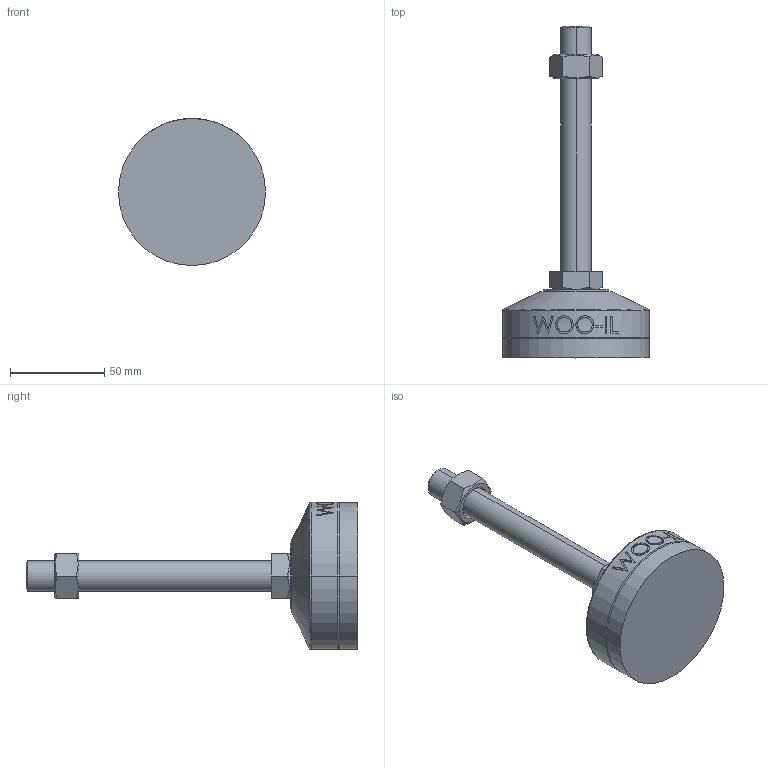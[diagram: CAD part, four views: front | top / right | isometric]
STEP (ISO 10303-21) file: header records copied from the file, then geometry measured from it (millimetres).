
FILE_DESCRIPTION (( 'STEP AP214' ), '1' );
FILE_NAME ('MFZR78-M16-130.step', '2021-03-29T06:57:34', ( '' ), ( '' ), 'SwSTEP 2.0', 'SolidWorks 2019', '' );
FILE_SCHEMA (( 'AUTOMOTIVE_DESIGN' ));
Length unit declared in the file: millimetre
Products named in the file (2): MFZR78-M16-130
Bounding box: 78 x 176 x 78 mm (x, y, z)
Volume: 184000.3 mm3; surface area: 36246 mm2
Topology: 4 solids, 4 shells, 103 faces, 235 edges, 150 vertices
Faces by surface type: plane 49, cylinder 18, bspline 16, cone 14, torus 6
Entity records: 4499 total; most frequent: CARTESIAN_POINT 2226, ORIENTED_EDGE 470, DIRECTION 417, EDGE_CURVE 235, AXIS2_PLACEMENT_3D 159, VERTEX_POINT 150, EDGE_LOOP 115, FACE_OUTER_BOUND 103
